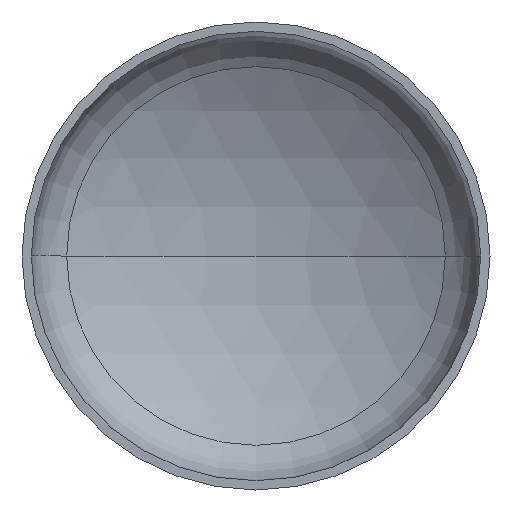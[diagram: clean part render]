
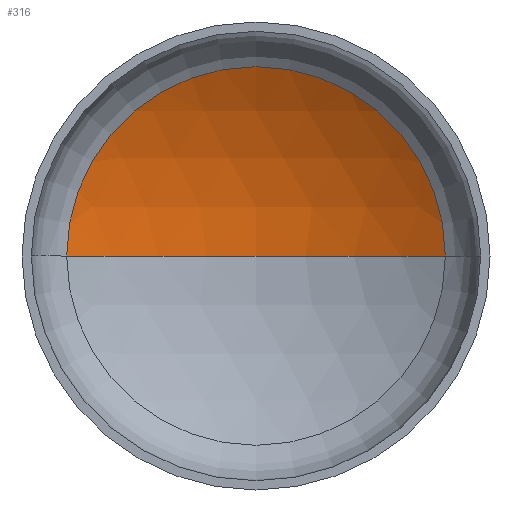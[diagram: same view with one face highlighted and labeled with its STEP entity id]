
A CAD part, front view. The second image highlights one B-rep face of the part: STEP entity #316.
In plain terms, the highlighted spherical face has radius 1440 mm.
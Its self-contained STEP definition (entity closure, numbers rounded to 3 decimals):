
#3 = VERTEX_POINT ( 'NONE', #247 ) ;
#15 = EDGE_LOOP ( 'NONE', ( #116, #74, #42 ) ) ;
#27 = AXIS2_PLACEMENT_3D ( 'NONE', #222, #59, #366 ) ;
#35 = AXIS2_PLACEMENT_3D ( 'NONE', #167, #143, #321 ) ;
#42 = ORIENTED_EDGE ( 'NONE', *, *, #331, .T. ) ;
#46 = VERTEX_POINT ( 'NONE', #219 ) ;
#49 = AXIS2_PLACEMENT_3D ( 'NONE', #378, #111, #115 ) ;
#59 = DIRECTION ( 'NONE',  ( 0., 0., -1. ) ) ;
#74 = ORIENTED_EDGE ( 'NONE', *, *, #338, .T. ) ;
#105 = VERTEX_POINT ( 'NONE', #234 ) ;
#111 = DIRECTION ( 'NONE',  ( 0., 0., -1. ) ) ;
#115 = DIRECTION ( 'NONE',  ( -1., 0., 0. ) ) ;
#116 = ORIENTED_EDGE ( 'NONE', *, *, #389, .F. ) ;
#143 = DIRECTION ( 'NONE',  ( 0., -1., 0. ) ) ;
#167 = CARTESIAN_POINT ( 'NONE',  ( 0., 347.265, 0. ) ) ;
#219 = CARTESIAN_POINT ( 'NONE',  ( 0., 544.861, 0. ) ) ;
#222 = CARTESIAN_POINT ( 'NONE',  ( 0., -895.139, 0. ) ) ;
#234 = CARTESIAN_POINT ( 'NONE',  ( 728.034, 347.265, 0. ) ) ;
#247 = CARTESIAN_POINT ( 'NONE',  ( -728.034, 347.265, 0. ) ) ;
#255 = DIRECTION ( 'NONE',  ( 0., 0., 1. ) ) ;
#278 = CIRCLE ( 'NONE', #27, 1440. ) ;
#285 = SPHERICAL_SURFACE ( 'NONE', #49, 1440. ) ;
#316 = ADVANCED_FACE ( 'NONE', ( #403 ), #285, .F. ) ;
#321 = DIRECTION ( 'NONE',  ( 1., 0., 0. ) ) ;
#331 = EDGE_CURVE ( 'NONE', #105, #3, #349, .T. ) ;
#334 = AXIS2_PLACEMENT_3D ( 'NONE', #393, #255, #410 ) ;
#338 = EDGE_CURVE ( 'NONE', #46, #105, #278, .T. ) ;
#349 = CIRCLE ( 'NONE', #35, 728.034 ) ;
#366 = DIRECTION ( 'NONE',  ( -1., 0., 0. ) ) ;
#378 = CARTESIAN_POINT ( 'NONE',  ( 0., -895.139, 0. ) ) ;
#389 = EDGE_CURVE ( 'NONE', #46, #3, #391, .T. ) ;
#391 = CIRCLE ( 'NONE', #334, 1440. ) ;
#393 = CARTESIAN_POINT ( 'NONE',  ( 0., -895.139, 0. ) ) ;
#403 = FACE_OUTER_BOUND ( 'NONE', #15, .T. ) ;
#410 = DIRECTION ( 'NONE',  ( 1., 0., 0. ) ) ;
